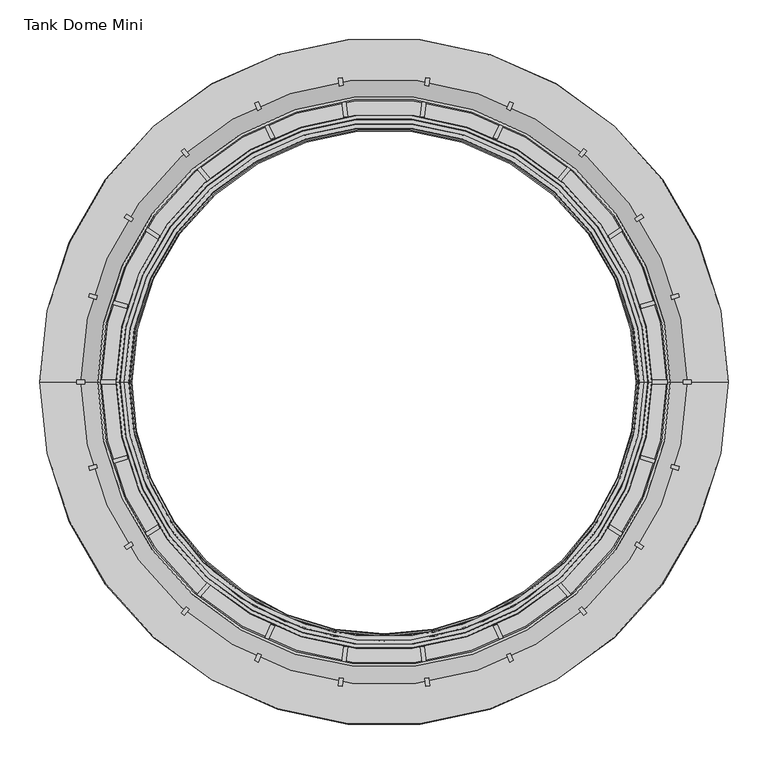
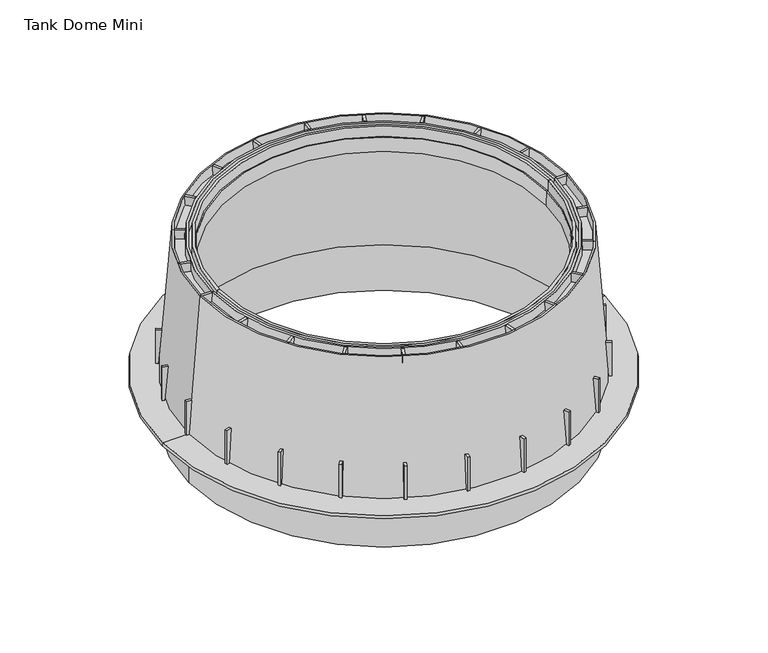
"""IFC4 building model written with IfcOpenShell, lengths in millimetres: proxy geometry, GRAF Tank Dome Mini : Tank Dome Mini."""

from ifc_helpers import new_model, si_unit, frame, origin, place, context, project, spatial, polyline, circle_curve, outline, extrude, source, transform, mapped, element, save
from ifc_brep_helpers import plane_surface, revolved_surface, advanced_brep


def tank_dome_mini_c82e10f8(model_context):
    return source(origin(), model_context, "Body", "SolidModel", [
        advanced_brep(
        [(435.0, 0.0, 6.0), (-435.0, 0.0, 6.0), (-383.5532657, 0.0, 6.0), (383.5532657, 0.0, 6.0), (435.524932, 0.0, 0.0), (-435.524932, 0.0, 0.0), (384.0139606, 0.0, 0.0), (-384.0139606, 0.0, 0.0), (383.0190866, 0.0, -95.0), (-383.0190866, 0.0, -95.0), (378.8253524, 0.0, -95.0), (-378.8253524, 0.0, -95.0), (377.9963, 0.0, 0.0), (-377.9963, 0.0, 0.0), (357.994462, 0.0, 260.5), (-357.994462, 0.0, 260.5), (327.3017331, 0.0, 260.5), (-327.3017331, 0.0, 260.5), (333.3393558, 0.0, 266.5), (-333.3393558, 0.0, 266.5), (-328.2954412, 0.0, 266.5), (328.2954412, 0.0, 266.5), (359.0056968, 0.0, 285.0), (-359.0056968, 0.0, 285.0), (-357.3871565, 0.0, 266.5), (357.3871565, 0.0, 266.5), (362.1309517, 0.0, 285.0), (-362.1309517, 0.0, 285.0), (320.0770663, 0.0, 263.8164931), (-320.0770663, 0.0, 263.8164931), (-319.0707722, 0.0, 235.0), (319.0707722, 0.0, 235.0), (322.0894576, 0.0, 264.171332), (-322.0894576, 0.0, 264.171332), (322.8168107, 0.0, 285.0), (-322.8168107, 0.0, 285.0), (325.0707722, 0.0, 235.0), (-325.0707722, 0.0, 235.0), (328.1339942, 0.0, 285.0), (-328.1339942, 0.0, 285.0), (333.98539, 0.0, 285.0), (-333.98539, 0.0, 285.0), (338.4773419, 0.0, 285.0), (-338.4773419, 0.0, 285.0), (339.0646982, 0.0, 266.5), (-339.0646982, 0.0, 266.5)],
        [
            (0, 1, circle_curve(frame((0.0, 0.0, 6.0), z_axis=(0.0, 0.0, 1.0), x_axis=(-1.0, 0.0, 0.0)), 435.0)),
            (1, 2),
            (2, 3, circle_curve(frame((0.0, 0.0, 6.0), z_axis=(0.0, 0.0, -1.0), x_axis=(-1.0, 0.0, 0.0)), 383.5532657)),
            (3, 0),
            (1, 0, circle_curve(frame((0.0, 0.0, 6.0), z_axis=(0.0, 0.0, 1.0), x_axis=(-1.0, 0.0, 0.0)), 435.0)),
            (3, 2, circle_curve(frame((0.0, 0.0, 6.0), z_axis=(0.0, 0.0, -1.0), x_axis=(-1.0, 0.0, 0.0)), 383.5532657)),
            (4, 5, circle_curve(frame((0.0, 0.0, 0.0), z_axis=(0.0, 0.0, 1.0), x_axis=(-1.0, 0.0, 0.0)), 435.524932)),
            (5, 1),
            (0, 4),
            (5, 4, circle_curve(frame((0.0, 0.0, 0.0), z_axis=(0.0, 0.0, 1.0), x_axis=(-1.0, 0.0, 0.0)), 435.524932)),
            (6, 7, circle_curve(frame((0.0, 0.0, 0.0), z_axis=(0.0, 0.0, 1.0), x_axis=(-1.0, 0.0, 0.0)), 384.0139606)),
            (7, 5),
            (4, 6),
            (7, 6, circle_curve(frame((0.0, 0.0, 0.0), z_axis=(0.0, 0.0, 1.0), x_axis=(-1.0, 0.0, 0.0)), 384.0139606)),
            (8, 9, circle_curve(frame((0.0, 0.0, -95.0), z_axis=(0.0, 0.0, 1.0), x_axis=(-1.0, 0.0, 0.0)), 383.0190866)),
            (9, 7),
            (6, 8),
            (9, 8, circle_curve(frame((0.0, 0.0, -95.0), z_axis=(0.0, 0.0, 1.0), x_axis=(-1.0, 0.0, 0.0)), 383.0190866)),
            (10, 11, circle_curve(frame((0.0, 0.0, -95.0), z_axis=(0.0, 0.0, 1.0), x_axis=(-1.0, 0.0, 0.0)), 378.8253524)),
            (11, 9),
            (8, 10),
            (11, 10, circle_curve(frame((0.0, 0.0, -95.0), z_axis=(0.0, 0.0, 1.0), x_axis=(-1.0, 0.0, 0.0)), 378.8253524)),
            (12, 13, circle_curve(frame((0.0, 0.0, 0.0), z_axis=(0.0, 0.0, 1.0), x_axis=(-1.0, 0.0, 0.0)), 377.9963)),
            (13, 11),
            (10, 12),
            (13, 12, circle_curve(frame((0.0, 0.0, 0.0), z_axis=(0.0, 0.0, 1.0), x_axis=(-1.0, 0.0, 0.0)), 377.9963)),
            (14, 15, circle_curve(frame((0.0, 0.0, 260.5), z_axis=(0.0, 0.0, 1.0), x_axis=(-1.0, 0.0, 0.0)), 357.994462)),
            (15, 13),
            (12, 14),
            (15, 14, circle_curve(frame((0.0, 0.0, 260.5), z_axis=(0.0, 0.0, 1.0), x_axis=(-1.0, 0.0, 0.0)), 357.994462)),
            (16, 17, circle_curve(frame((0.0, 0.0, 260.5), z_axis=(0.0, 0.0, 1.0), x_axis=(-1.0, 0.0, 0.0)), 327.3017331)),
            (17, 15),
            (14, 16),
            (17, 16, circle_curve(frame((0.0, 0.0, 260.5), z_axis=(0.0, 0.0, 1.0), x_axis=(-1.0, 0.0, 0.0)), 327.3017331)),
            (18, 19, circle_curve(frame((0.0, 0.0, 266.5), z_axis=(0.0, 0.0, 1.0), x_axis=(-1.0, 0.0, 0.0)), 333.3393558)),
            (19, 20),
            (20, 21, circle_curve(frame((0.0, 0.0, 266.5), z_axis=(0.0, 0.0, -1.0), x_axis=(-1.0, 0.0, 0.0)), 328.2954412)),
            (21, 18),
            (19, 18, circle_curve(frame((0.0, 0.0, 266.5), z_axis=(0.0, 0.0, 1.0), x_axis=(-1.0, 0.0, 0.0)), 333.3393558)),
            (21, 20, circle_curve(frame((0.0, 0.0, 266.5), z_axis=(0.0, 0.0, -1.0), x_axis=(-1.0, 0.0, 0.0)), 328.2954412)),
            (22, 23, circle_curve(frame((0.0, 0.0, 285.0), z_axis=(0.0, 0.0, 1.0), x_axis=(-1.0, 0.0, 0.0)), 359.0056968)),
            (23, 24),
            (24, 25, circle_curve(frame((0.0, 0.0, 266.5), z_axis=(0.0, 0.0, -1.0), x_axis=(-1.0, 0.0, 0.0)), 357.3871565)),
            (25, 22),
            (23, 22, circle_curve(frame((0.0, 0.0, 285.0), z_axis=(0.0, 0.0, 1.0), x_axis=(-1.0, 0.0, 0.0)), 359.0056968)),
            (25, 24, circle_curve(frame((0.0, 0.0, 266.5), z_axis=(0.0, 0.0, -1.0), x_axis=(-1.0, 0.0, 0.0)), 357.3871565)),
            (26, 27, circle_curve(frame((0.0, 0.0, 285.0), z_axis=(0.0, 0.0, 1.0), x_axis=(-1.0, 0.0, 0.0)), 362.1309517)),
            (27, 23),
            (22, 26),
            (27, 26, circle_curve(frame((0.0, 0.0, 285.0), z_axis=(0.0, 0.0, 1.0), x_axis=(-1.0, 0.0, 0.0)), 362.1309517)),
            (2, 27),
            (26, 3),
            (28, 29, circle_curve(frame((0.0, 0.0, 263.8164931), z_axis=(0.0, 0.0, 1.0), x_axis=(-1.0, 0.0, 0.0)), 320.0770663)),
            (29, 30),
            (30, 31, circle_curve(frame((0.0, 0.0, 235.0), z_axis=(0.0, 0.0, -1.0), x_axis=(-1.0, 0.0, 0.0)), 319.0707722)),
            (31, 28),
            (29, 28, circle_curve(frame((0.0, 0.0, 263.8164931), z_axis=(0.0, 0.0, 1.0), x_axis=(-1.0, 0.0, 0.0)), 320.0770663)),
            (31, 30, circle_curve(frame((0.0, 0.0, 235.0), z_axis=(0.0, 0.0, -1.0), x_axis=(-1.0, 0.0, 0.0)), 319.0707722)),
            (32, 33, circle_curve(frame((0.0, 0.0, 264.171332), z_axis=(0.0, 0.0, 1.0), x_axis=(-1.0, 0.0, 0.0)), 322.0894576)),
            (33, 29),
            (28, 32),
            (33, 32, circle_curve(frame((0.0, 0.0, 264.171332), z_axis=(0.0, 0.0, 1.0), x_axis=(-1.0, 0.0, 0.0)), 322.0894576)),
            (34, 35, circle_curve(frame((0.0, 0.0, 285.0), z_axis=(0.0, 0.0, 1.0), x_axis=(-1.0, 0.0, 0.0)), 322.8168107)),
            (35, 33),
            (32, 34),
            (35, 34, circle_curve(frame((0.0, 0.0, 285.0), z_axis=(0.0, 0.0, 1.0), x_axis=(-1.0, 0.0, 0.0)), 322.8168107)),
            (36, 37, circle_curve(frame((0.0, 0.0, 235.0), z_axis=(0.0, 0.0, 1.0), x_axis=(-1.0, 0.0, 0.0)), 325.0707722)),
            (37, 17),
            (16, 36),
            (37, 36, circle_curve(frame((0.0, 0.0, 235.0), z_axis=(0.0, 0.0, 1.0), x_axis=(-1.0, 0.0, 0.0)), 325.0707722)),
            (30, 37),
            (36, 31),
            (38, 39, circle_curve(frame((0.0, 0.0, 285.0), z_axis=(0.0, 0.0, 1.0), x_axis=(-1.0, 0.0, 0.0)), 328.1339942)),
            (39, 35),
            (34, 38),
            (39, 38, circle_curve(frame((0.0, 0.0, 285.0), z_axis=(0.0, 0.0, 1.0), x_axis=(-1.0, 0.0, 0.0)), 328.1339942)),
            (20, 39),
            (38, 21),
            (40, 41, circle_curve(frame((0.0, 0.0, 285.0), z_axis=(0.0, 0.0, 1.0), x_axis=(-1.0, 0.0, 0.0)), 333.98539)),
            (41, 19),
            (18, 40),
            (41, 40, circle_curve(frame((0.0, 0.0, 285.0), z_axis=(0.0, 0.0, 1.0), x_axis=(-1.0, 0.0, 0.0)), 333.98539)),
            (42, 43, circle_curve(frame((0.0, 0.0, 285.0), z_axis=(0.0, 0.0, 1.0), x_axis=(-1.0, 0.0, 0.0)), 338.4773419)),
            (43, 41),
            (40, 42),
            (43, 42, circle_curve(frame((0.0, 0.0, 285.0), z_axis=(0.0, 0.0, 1.0), x_axis=(-1.0, 0.0, 0.0)), 338.4773419)),
            (44, 45, circle_curve(frame((0.0, 0.0, 266.5), z_axis=(0.0, 0.0, 1.0), x_axis=(-1.0, 0.0, 0.0)), 339.0646982)),
            (45, 43),
            (42, 44),
            (45, 44, circle_curve(frame((0.0, 0.0, 266.5), z_axis=(0.0, 0.0, 1.0), x_axis=(-1.0, 0.0, 0.0)), 339.0646982)),
            (24, 45),
            (44, 25),
        ],
        [
            plane_surface(frame((0.0, 0.0, 6.0), z_axis=(0.0, 0.0, 1.0), x_axis=(-1.0, 0.0, 0.0))),
            revolved_surface(polyline([(-435.0, 0.0, 6.0), (-435.524932, 0.0, 0.0)]), (0.0, 0.0, 486.5), (0.0, 0.0, -1.0)),
            plane_surface(frame((0.0, 0.0, 0.0), z_axis=(0.0, 0.0, -1.0), x_axis=(-1.0, 0.0, 0.0))),
            revolved_surface(polyline([(-384.0139606, 0.0, 0.0), (-383.0190866, 0.0, -95.0)]), (0.0, 0.0, 486.5), (0.0, 0.0, -1.0)),
            plane_surface(frame((0.0, 0.0, -95.0), z_axis=(0.0, 0.0, -1.0), x_axis=(-1.0, 0.0, 0.0))),
            revolved_surface(polyline([(-378.8253524, 0.0, -95.0), (-377.9963, 0.0, 0.0)]), (0.0, 0.0, 486.5), (0.0, 0.0, -1.0)),
            revolved_surface(polyline([(-377.9963, 0.0, 0.0), (-357.994462, 0.0, 260.5)]), (0.0, 0.0, 486.5), (0.0, 0.0, -1.0)),
            plane_surface(frame((0.0, 0.0, 260.5), z_axis=(0.0, 0.0, -1.0), x_axis=(-1.0, 0.0, 0.0))),
            plane_surface(frame((0.0, 0.0, 266.5), z_axis=(0.0, 0.0, 1.0), x_axis=(-1.0, 0.0, 0.0))),
            revolved_surface(polyline([(-357.3871565, 0.0, 266.5), (-359.0056968, 0.0, 285.0)]), (0.0, 0.0, 486.5), (0.0, 0.0, -1.0)),
            plane_surface(frame((0.0, 0.0, 285.0), z_axis=(0.0, 0.0, 1.0), x_axis=(-1.0, 0.0, 0.0))),
            revolved_surface(polyline([(-362.1309517, 0.0, 285.0), (-383.5532657, 0.0, 6.0)]), (0.0, 0.0, 486.5), (0.0, 0.0, -1.0)),
            revolved_surface(polyline([(-319.0707722, 0.0, 235.0), (-320.0770663, 0.0, 263.8164931)]), (0.0, 0.0, 486.5), (0.0, 0.0, -1.0)),
            revolved_surface(polyline([(-320.0770663, 0.0, 263.8164931), (-322.0894576, 0.0, 264.171332)]), (0.0, 0.0, 486.5), (0.0, 0.0, -1.0)),
            revolved_surface(polyline([(-322.0894576, 0.0, 264.171332), (-322.8168107, 0.0, 285.0)]), (0.0, 0.0, 486.5), (0.0, 0.0, -1.0)),
            revolved_surface(polyline([(-327.3017331, 0.0, 260.5), (-325.0707722, 0.0, 235.0)]), (0.0, 0.0, 486.5), (0.0, 0.0, -1.0)),
            plane_surface(frame((0.0, 0.0, 235.0), z_axis=(0.0, 0.0, -1.0), x_axis=(-1.0, 0.0, 0.0))),
            revolved_surface(polyline([(-328.1339942, 0.0, 285.0), (-328.2954412, 0.0, 266.5)]), (0.0, 0.0, 486.5), (0.0, 0.0, -1.0)),
            revolved_surface(polyline([(-333.3393558, 0.0, 266.5), (-333.98539, 0.0, 285.0)]), (0.0, 0.0, 486.5), (0.0, 0.0, -1.0)),
            revolved_surface(polyline([(-338.4773419, 0.0, 285.0), (-339.0646982, 0.0, 266.5)]), (0.0, 0.0, 486.5), (0.0, 0.0, -1.0)),
        ],
        [
            (0, [[1, 2, 3, 4]]),
            (0, [[5, -4, 6, -2]]),
            (1, [[7, 8, -1, 9]]),
            (1, [[10, -9, -5, -8]]),
            (2, [[11, 12, -7, 13]]),
            (2, [[14, -13, -10, -12]]),
            (3, [[15, 16, -11, 17]]),
            (3, [[18, -17, -14, -16]]),
            (4, [[19, 20, -15, 21]]),
            (4, [[22, -21, -18, -20]]),
            (5, [[23, 24, -19, 25]]),
            (5, [[26, -25, -22, -24]]),
            (6, [[27, 28, -23, 29]]),
            (6, [[30, -29, -26, -28]]),
            (7, [[31, 32, -27, 33]]),
            (7, [[34, -33, -30, -32]]),
            (8, [[35, 36, 37, 38]]),
            (8, [[39, -38, 40, -36]]),
            (9, [[41, 42, 43, 44]]),
            (9, [[45, -44, 46, -42]]),
            (10, [[47, 48, -41, 49]]),
            (10, [[50, -49, -45, -48]]),
            (11, [[-3, 51, -47, 52]]),
            (11, [[-6, -52, -50, -51]]),
            (12, [[53, 54, 55, 56]]),
            (12, [[57, -56, 58, -54]]),
            (13, [[59, 60, -53, 61]]),
            (13, [[62, -61, -57, -60]]),
            (14, [[63, 64, -59, 65]]),
            (14, [[66, -65, -62, -64]]),
            (15, [[67, 68, -31, 69]]),
            (15, [[70, -69, -34, -68]]),
            (16, [[-55, 71, -67, 72]]),
            (16, [[-58, -72, -70, -71]]),
            (10, [[73, 74, -63, 75]]),
            (10, [[76, -75, -66, -74]]),
            (17, [[-37, 77, -73, 78]]),
            (17, [[-40, -78, -76, -77]]),
            (18, [[79, 80, -35, 81]]),
            (18, [[82, -81, -39, -80]]),
            (10, [[83, 84, -79, 85]]),
            (10, [[86, -85, -82, -84]]),
            (19, [[87, 88, -83, 89]]),
            (19, [[90, -89, -86, -88]]),
            (8, [[-43, 91, -87, 92]]),
            (8, [[-46, -92, -90, -91]]),
        ],
    ),
        extrude(outline(polyline([(76.0, -388.5978034), (6.0, -388.5978034), (6.0, -383.9725776), (76.0, -378.5978034), (76.0, -388.5978034)])), frame((0.0, -2.5, 0.0), z_axis=(0.0, 1.0, 0.0), x_axis=(0.0, 0.0, 1.0)), (0.0, 0.0, 1.0), 5.0),
        extrude(outline(polyline([(285.0, -359.0056968), (266.5, -357.3871565), (266.5, -339.0646982), (285.0, -338.4773419), (285.0, -359.0056968)])), frame((0.0, -2.5, 0.0), z_axis=(0.0, 1.0, 0.0), x_axis=(0.0, 0.0, 1.0)), (0.0, 0.0, 1.0), 5.0),
        extrude(outline(polyline([(76.0, 388.5978034), (76.0, 378.5978034), (6.0, 383.9725776), (6.0, 388.5978034), (76.0, 388.5978034)])), frame((0.0, -2.5, 0.0), z_axis=(0.0, 1.0, 0.0), x_axis=(0.0, 0.0, 1.0)), (0.0, 0.0, 1.0), 5.0),
        extrude(outline(polyline([(285.0, 359.0056968), (285.0, 338.4773419), (266.5, 339.0646982), (266.5, 357.3871565), (285.0, 359.0056968)])), frame((0.0, -2.5, 0.0), z_axis=(0.0, 1.0, 0.0), x_axis=(0.0, 0.0, 1.0)), (0.0, 0.0, 1.0), 5.0),
        extrude(outline(polyline([(75.5978034, 0.0), (75.5978034, -70.0), (70.9725775, -70.0), (65.5978035, 0.0), (75.5978034, 0.0)])), frame((-261.9607537, -171.3237097, 76.0), z_axis=(-0.5406408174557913, 0.8412535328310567, 0.0), x_axis=(-0.8412535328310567, -0.5406408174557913, 0.0)), (0.0, 0.0, 1.0), 5.0),
        extrude(outline(polyline([(46.0056968, 209.0), (44.3871566, 190.5), (26.0646981, 190.5), (25.4773419, 209.0), (46.0056968, 209.0)])), frame((-261.9607537, -171.3237097, 76.0), z_axis=(-0.5406408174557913, 0.8412535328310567, 0.0), x_axis=(-0.8412535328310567, -0.5406408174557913, 0.0)), (0.0, 0.0, 1.0), 5.0),
        extrude(outline(polyline([(75.5978035, 0.0), (75.5978035, -70.0), (70.9725776, -70.0), (65.5978035, 0.0), (75.5978035, 0.0)])), frame((-299.6169693, -90.5810227, 76.0), z_axis=(-0.2817325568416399, 0.9594929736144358, 0.0), x_axis=(-0.9594929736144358, -0.2817325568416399, 0.0)), (0.0, 0.0, 1.0), 5.0),
        extrude(outline(polyline([(46.0056969, 209.0), (44.3871566, 190.5), (26.0646982, 190.5), (25.477342, 209.0), (46.0056969, 209.0)])), frame((-299.6169693, -90.5810227, 76.0), z_axis=(-0.2817325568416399, 0.9594929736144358, 0.0), x_axis=(-0.9594929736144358, -0.2817325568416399, 0.0)), (0.0, 0.0, 1.0), 5.0),
        extrude(outline(polyline([(75.5978034, 0.0), (75.5978034, -70.0), (70.9725776, -70.0), (65.5978034, 0.0), (75.5978034, 0.0)])), frame((-203.0820358, -238.1867686, 76.0), z_axis=(-0.755749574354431, 0.6548607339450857, 0.0), x_axis=(-0.6548607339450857, -0.755749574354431, 0.0)), (0.0, 0.0, 1.0), 5.0),
        extrude(outline(polyline([(46.0056968, 209.0), (44.3871566, 190.5), (26.0646982, 190.5), (25.4773419, 209.0), (46.0056968, 209.0)])), frame((-203.0820358, -238.1867686, 76.0), z_axis=(-0.755749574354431, 0.6548607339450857, 0.0), x_axis=(-0.6548607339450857, -0.755749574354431, 0.0)), (0.0, 0.0, 1.0), 5.0),
        extrude(outline(polyline([(-133.0491355, 0.0), (-63.0491355, 0.0), (-63.0491355, -4.6252259), (-133.0491355, -10.0000001), (-133.0491355, 0.0)])), frame((-159.1552816, -354.5195329, -57.0491355), z_axis=(-0.909631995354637, 0.415415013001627, 0.0), x_axis=(0.0, 0.0, -1.0)), (0.0, 0.0, 1.0), 5.0),
        extrude(outline(polyline([(-342.0491355, -29.5921066), (-323.5491355, -31.210647), (-323.5491355, -49.5331053), (-342.0491355, -50.1204616), (-342.0491355, -29.5921066)])), frame((-159.1552816, -354.5195329, -57.0491355), z_axis=(-0.909631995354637, 0.415415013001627, 0.0), x_axis=(0.0, 0.0, -1.0)), (0.0, 0.0, 1.0), 5.0),
        extrude(outline(polyline([(-133.0491355, 0.0), (-63.0491355, 0.0), (-63.0491355, -4.6252258), (-133.0491355, -10.0), (-133.0491355, 0.0)])), frame((-52.8286799, -384.9982252, -57.0491355), z_axis=(-0.989821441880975, 0.14231483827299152, 0.0), x_axis=(0.0, 0.0, -1.0)), (0.0, 0.0, 1.0), 5.0),
        extrude(outline(polyline([(-342.0491355, -29.5921066), (-323.5491355, -31.2106469), (-323.5491355, -49.5331053), (-342.0491355, -50.1204615), (-342.0491355, -29.5921066)])), frame((-52.8286799, -384.9982252, -57.0491355), z_axis=(-0.989821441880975, 0.14231483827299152, 0.0), x_axis=(0.0, 0.0, -1.0)), (0.0, 0.0, 1.0), 5.0),
        extrude(outline(polyline([(-75.5978035, 0.0), (-65.5978034, 0.0), (-70.9725776, -70.0), (-75.5978035, -70.0), (-75.5978035, 0.0)])), frame((301.0256321, 85.7835579, 76.0), z_axis=(-0.2817325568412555, 0.9594929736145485, 0.0), x_axis=(-0.9594929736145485, -0.2817325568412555, 0.0)), (0.0, 0.0, 1.0), 5.0),
        extrude(outline(polyline([(-46.0056968, 209.0), (-25.4773419, 209.0), (-26.0646982, 190.5), (-44.3871565, 190.5), (-46.0056968, 209.0)])), frame((301.0256321, 85.7835579, 76.0), z_axis=(-0.2817325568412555, 0.9594929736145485, 0.0), x_axis=(-0.9594929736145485, -0.2817325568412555, 0.0)), (0.0, 0.0, 1.0), 5.0),
        extrude(outline(polyline([(133.0491355, 0.0), (133.0491355, -10.0), (63.0491355, -4.6252259), (63.0491355, 0.0), (133.0491355, 0.0)])), frame((328.260877, 207.9887003, -57.0491355), z_axis=(-0.540640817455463, 0.8412535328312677, 0.0), x_axis=(0.0, 0.0, 1.0)), (0.0, 0.0, 1.0), 5.0),
        extrude(outline(polyline([(342.0491355, -29.5921066), (342.0491355, -50.1204615), (323.5491355, -49.5331053), (323.5491355, -31.2106469), (342.0491355, -29.5921066)])), frame((328.260877, 207.9887003, -57.0491355), z_axis=(-0.540640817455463, 0.8412535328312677, 0.0), x_axis=(0.0, 0.0, 1.0)), (0.0, 0.0, 1.0), 5.0),
        extrude(outline(polyline([(133.0491355, 0.0), (133.0491355, -9.9999999), (63.0491355, -4.6252259), (63.0491355, 0.0), (133.0491355, 0.0)])), frame((325.5576729, -212.1949679, -57.0491355), z_axis=(0.5406408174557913, 0.8412535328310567, 0.0), x_axis=(0.0, 0.0, 1.0)), (0.0, 0.0, 1.0), 5.0),
        extrude(outline(polyline([(342.0491355, -29.5921066), (342.0491355, -50.1204615), (323.5491355, -49.5331053), (323.5491355, -31.2106468), (342.0491355, -29.5921066)])), frame((325.5576729, -212.1949679, -57.0491355), z_axis=(0.5406408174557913, 0.8412535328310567, 0.0), x_axis=(0.0, 0.0, 1.0)), (0.0, 0.0, 1.0), 5.0),
        extrude(outline(polyline([(133.0491355, 0.0), (133.0491355, -10.0000001), (63.0491355, -4.6252259), (63.0491355, 0.0), (133.0491355, 0.0)])), frame((372.1525306, -111.8793852, -57.0491355), z_axis=(0.2817325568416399, 0.9594929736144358, 0.0), x_axis=(0.0, 0.0, 1.0)), (0.0, 0.0, 1.0), 5.0),
        extrude(outline(polyline([(342.0491355, -29.5921067), (342.0491355, -50.1204616), (323.5491355, -49.5331053), (323.5491355, -31.2106469), (342.0491355, -29.5921067)])), frame((372.1525306, -111.8793852, -57.0491355), z_axis=(0.2817325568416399, 0.9594929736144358, 0.0), x_axis=(0.0, 0.0, 1.0)), (0.0, 0.0, 1.0), 5.0),
        extrude(outline(polyline([(133.0491355, 0.0), (133.0491355, -10.0), (63.0491355, -4.6252259), (63.0491355, 0.0), (133.0491355, 0.0)])), frame((252.5880688, -295.3197764, -57.0491355), z_axis=(0.7557495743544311, 0.6548607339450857, 0.0), x_axis=(0.0, 0.0, 1.0)), (0.0, 0.0, 1.0), 5.0),
        extrude(outline(polyline([(342.0491355, -29.5921066), (342.0491355, -50.1204615), (323.5491355, -49.5331053), (323.5491355, -31.2106469), (342.0491355, -29.5921066)])), frame((252.5880688, -295.3197764, -57.0491355), z_axis=(0.7557495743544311, 0.6548607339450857, 0.0), x_axis=(0.0, 0.0, 1.0)), (0.0, 0.0, 1.0), 5.0),
        extrude(outline(polyline([(-75.5978035, 0.0), (-65.5978034, 0.0), (-70.9725775, -70.0), (-75.5978035, -70.0), (-75.5978035, 0.0)])), frame((127.7508191, -285.7533521, 76.0), z_axis=(0.909631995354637, 0.415415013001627, 0.0), x_axis=(-0.415415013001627, 0.909631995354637, 0.0)), (0.0, 0.0, 1.0), 5.0),
        extrude(outline(polyline([(-46.0056968, 209.0), (-25.4773418, 209.0), (-26.0646982, 190.5), (-44.3871565, 190.5), (-46.0056968, 209.0)])), frame((127.7508191, -285.7533521, 76.0), z_axis=(0.909631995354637, 0.415415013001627, 0.0), x_axis=(-0.415415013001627, 0.909631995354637, 0.0)), (0.0, 0.0, 1.0), 5.0),
        extrude(outline(polyline([(-75.5978034, 0.0), (-65.5978035, 0.0), (-70.9725776, -70.0), (-75.5978034, -70.0), (-75.5978034, 0.0)])), frame((42.0699908, -310.1698984, 76.0), z_axis=(0.989821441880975, 0.14231483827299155, 0.0), x_axis=(-0.14231483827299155, 0.989821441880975, 0.0)), (0.0, 0.0, 1.0), 5.0),
        extrude(outline(polyline([(-46.0056969, 209.0), (-25.4773419, 209.0), (-26.0646981, 190.5), (-44.3871566, 190.5), (-46.0056969, 209.0)])), frame((42.0699908, -310.1698984, 76.0), z_axis=(0.989821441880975, 0.14231483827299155, 0.0), x_axis=(-0.14231483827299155, 0.989821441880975, 0.0)), (0.0, 0.0, 1.0), 5.0),
        extrude(outline(polyline([(-133.0491355, 0.0), (-63.0491355, 0.0), (-63.0491355, -4.6252258), (-133.0491355, -10.0), (-133.0491355, 0.0)])), frame((-57.7777872, 384.286651, -57.0491355), z_axis=(0.9898214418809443, 0.14231483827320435, 0.0), x_axis=(0.0, 0.0, -1.0)), (0.0, 0.0, 1.0), 5.0),
        extrude(outline(polyline([(-342.0491355, -29.5921066), (-323.5491355, -31.2106469), (-323.5491355, -49.5331053), (-342.0491355, -50.1204615), (-342.0491355, -29.5921066)])), frame((-57.7777872, 384.286651, -57.0491355), z_axis=(0.9898214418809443, 0.14231483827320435, 0.0), x_axis=(0.0, 0.0, -1.0)), (0.0, 0.0, 1.0), 5.0),
        extrude(outline(polyline([(133.0491355, 0.0), (133.0491355, -10.0), (63.0491355, -4.6252258), (63.0491355, 0.0), (133.0491355, 0.0)])), frame((57.7777872, 384.286651, -57.0491355), z_axis=(-0.9898214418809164, 0.14231483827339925, 0.0), x_axis=(0.0, 0.0, 1.0)), (0.0, 0.0, 1.0), 5.0),
        extrude(outline(polyline([(342.0491355, -29.5921066), (342.0491355, -50.1204615), (323.5491355, -49.5331053), (323.5491355, -31.2106469), (342.0491355, -29.5921066)])), frame((57.7777872, 384.286651, -57.0491355), z_axis=(-0.9898214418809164, 0.14231483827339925, 0.0), x_axis=(0.0, 0.0, 1.0)), (0.0, 0.0, 1.0), 5.0),
        extrude(outline(polyline([(-75.5978035, 0.0), (-65.5978034, 0.0), (-70.9725776, -70.0), (-75.5978035, -70.0), (-75.5978035, 0.0)])), frame((132.2989791, 283.676277, 76.0), z_axis=(-0.9096319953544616, 0.41541501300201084, 0.0), x_axis=(-0.41541501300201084, -0.9096319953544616, 0.0)), (0.0, 0.0, 1.0), 5.0),
        extrude(outline(polyline([(-46.0056968, 209.0), (-25.4773418, 209.0), (-26.0646982, 190.5), (-44.3871566, 190.5), (-46.0056968, 209.0)])), frame((132.2989791, 283.676277, 76.0), z_axis=(-0.9096319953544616, 0.41541501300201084, 0.0), x_axis=(-0.41541501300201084, -0.9096319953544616, 0.0)), (0.0, 0.0, 1.0), 5.0),
        extrude(outline(polyline([(-75.5978034, 0.0), (-65.5978035, 0.0), (-70.9725776, -70.0), (-75.5978034, -70.0), (-75.5978034, 0.0)])), frame((206.8607837, 234.9124649, 76.0), z_axis=(-0.7557495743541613, 0.654860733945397, 0.0), x_axis=(-0.654860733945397, -0.7557495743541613, 0.0)), (0.0, 0.0, 1.0), 5.0),
        extrude(outline(polyline([(-46.0056968, 209.0), (-25.4773419, 209.0), (-26.0646982, 190.5), (-44.3871566, 190.5), (-46.0056968, 209.0)])), frame((206.8607837, 234.9124649, 76.0), z_axis=(-0.7557495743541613, 0.654860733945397, 0.0), x_axis=(-0.654860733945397, -0.7557495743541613, 0.0)), (0.0, 0.0, 1.0), 5.0),
        extrude(outline(polyline([(75.5978034, 0.0), (75.5978034, -70.0), (70.9725776, -70.0), (65.5978035, 0.0), (75.5978034, 0.0)])), frame((-206.8607837, 234.9124649, 76.0), z_axis=(0.7557495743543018, 0.6548607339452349, 0.0), x_axis=(-0.6548607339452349, 0.7557495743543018, 0.0)), (0.0, 0.0, 1.0), 5.0),
        extrude(outline(polyline([(46.0056968, 209.0), (44.3871566, 190.5), (26.0646982, 190.5), (25.4773419, 209.0), (46.0056968, 209.0)])), frame((-206.8607837, 234.9124649, 76.0), z_axis=(0.7557495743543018, 0.6548607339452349, 0.0), x_axis=(-0.6548607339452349, 0.7557495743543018, 0.0)), (0.0, 0.0, 1.0), 5.0),
        extrude(outline(polyline([(75.5978035, 0.0), (75.5978035, -70.0), (70.9725776, -70.0), (65.5978034, 0.0), (75.5978035, 0.0)])), frame((-132.2989791, 283.676277, 76.0), z_axis=(0.9096319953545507, 0.4154150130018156, 0.0), x_axis=(-0.4154150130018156, 0.9096319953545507, 0.0)), (0.0, 0.0, 1.0), 5.0),
        extrude(outline(polyline([(46.0056968, 209.0), (44.3871566, 190.5), (26.0646982, 190.5), (25.4773418, 209.0), (46.0056968, 209.0)])), frame((-132.2989791, 283.676277, 76.0), z_axis=(0.9096319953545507, 0.4154150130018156, 0.0), x_axis=(-0.4154150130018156, 0.9096319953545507, 0.0)), (0.0, 0.0, 1.0), 5.0),
        extrude(outline(polyline([(75.5978035, 0.0), (75.5978035, -70.0), (70.9725776, -70.0), (65.5978035, 0.0), (75.5978035, 0.0)])), frame((-264.6639578, 167.117442, 76.0), z_axis=(0.5406408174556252, 0.8412535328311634, 0.0), x_axis=(-0.8412535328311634, 0.5406408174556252, 0.0)), (0.0, 0.0, 1.0), 5.0),
        extrude(outline(polyline([(46.0056969, 209.0), (44.3871566, 190.5), (26.0646982, 190.5), (25.4773419, 209.0), (46.0056969, 209.0)])), frame((-264.6639578, 167.117442, 76.0), z_axis=(0.5406408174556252, 0.8412535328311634, 0.0), x_axis=(-0.8412535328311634, 0.5406408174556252, 0.0)), (0.0, 0.0, 1.0), 5.0),
        extrude(outline(polyline([(-133.0491355, 0.0), (-63.0491355, 0.0), (-63.0491355, -4.6252259), (-133.0491355, -10.0000001), (-133.0491355, 0.0)])), frame((-373.5611934, 107.0819203, -57.0491355), z_axis=(0.2817325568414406, 0.9594929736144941, 0.0), x_axis=(0.0, 0.0, -1.0)), (0.0, 0.0, 1.0), 5.0),
        extrude(outline(polyline([(-342.0491355, -29.5921067), (-323.5491355, -31.210647), (-323.5491355, -49.5331053), (-342.0491355, -50.1204616), (-342.0491355, -29.5921067)])), frame((-373.5611934, 107.0819203, -57.0491355), z_axis=(0.2817325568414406, 0.9594929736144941, 0.0), x_axis=(0.0, 0.0, -1.0)), (0.0, 0.0, 1.0), 5.0),
    ])


if __name__ == "__main__":
    model = new_model("IFC4")
    model_context = context("Model", 3, world=origin())
    ifc_project = project(units=[si_unit("LENGTHUNIT", "METRE", prefix="MILLI")], contexts=[model_context])
    site = spatial("IfcSite", under=ifc_project)
    building = spatial("IfcBuilding", under=site)
    placement = place(None, origin())
    tank_dome_mini_shape = tank_dome_mini_c82e10f8(model_context)
    element("IfcBuildingElementProxy", 1, Name="GRAF Tank Dome Mini : Tank Dome Mini", ObjectType="GRAF Tank Dome Mini : Tank Dome Mini", at=placement, inside=building, context=model_context, shape_type="MappedRepresentation", body=[
        mapped(tank_dome_mini_shape, transform((0.0, 0.0, 0.0), x_axis=(1.0, 0.0, 0.0), y_axis=(0.0, 1.0, 0.0), z_axis=(0.0, 0.0, 1.0))),
    ])
    save(model, "model.ifc")
